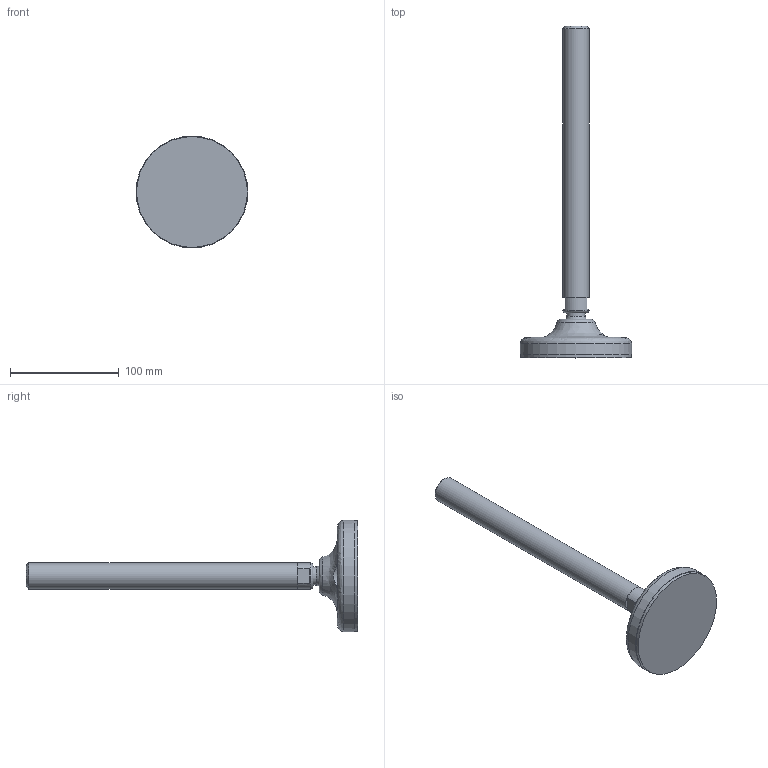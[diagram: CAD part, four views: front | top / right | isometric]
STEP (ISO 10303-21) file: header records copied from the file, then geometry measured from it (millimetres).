
FILE_DESCRIPTION(('STEP AP203'),'2;1');
FILE_NAME('10373.stp','2014-02-21T08:55:02',(''),(''),'2008.1.107','THINKDESIGN','');
FILE_SCHEMA(('CONFIG_CONTROL_DESIGN'));
Length unit declared in the file: millimetre
Bounding box: 103.02 x 305.63 x 103.02 mm (x, y, z)
Volume: 297034.5 mm3; surface area: 61003.3 mm2
Topology: 4 solids, 4 shells, 31 faces, 75 edges, 53 vertices
Faces by surface type: plane 18, bspline 7, cylinder 6
Full cylindrical faces by diameter (mm): 16.642 x1, 24 x2, 102 x1
Entity records: 1563 total; most frequent: CARTESIAN_POINT 723, DIRECTION 167, ORIENTED_EDGE 150, AXIS2_PLACEMENT_3D 75, EDGE_CURVE 75, VERTEX_POINT 53, CIRCLE 51, EDGE_LOOP 32
